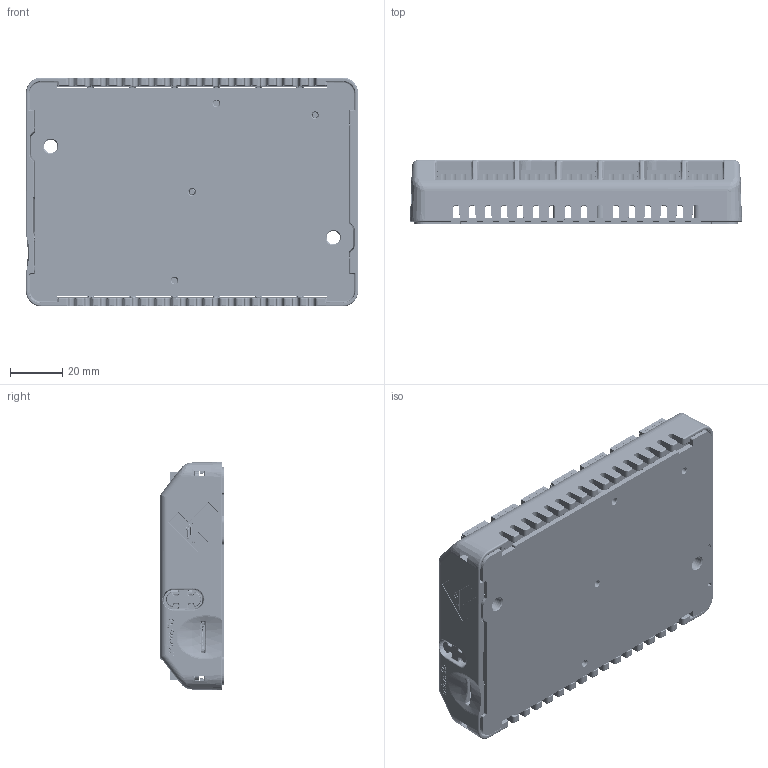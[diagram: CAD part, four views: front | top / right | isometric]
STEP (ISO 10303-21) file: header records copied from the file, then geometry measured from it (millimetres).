
FILE_DESCRIPTION (( 'STEP AP214' ), '1' );
FILE_NAME ('CLCR-4-13.STEP', '2020-04-28T13:33:36', ( 'Tom Dombroski' ), ( '' ), 'SwSTEP 2.0', 'SolidWorks 2013', '' );
FILE_SCHEMA (( 'AUTOMOTIVE_DESIGN' ));
Length unit declared in the file: millimetre
Products named in the file (1): CLCR-4-13
Bounding box: 126.86 x 24.26 x 87.49 mm (x, y, z)
Volume: 93916.6 mm3; surface area: 118066.3 mm2
Topology: 31 solids, 32 shells, 14814 faces, 39243 edges, 24442 vertices
Faces by surface type: plane 8580, cylinder 2973, bspline 2330, torus 312, cone 310, sphere 309
Entity records: 653629 total; most frequent: CARTESIAN_POINT 141322, ORIENTED_EDGE 77852, DIRECTION 65602, EDGE_CURVE 38926, VECTOR 27738, LINE 27738, VERTEX_POINT 24438, AXIS2_PLACEMENT_3D 18932
